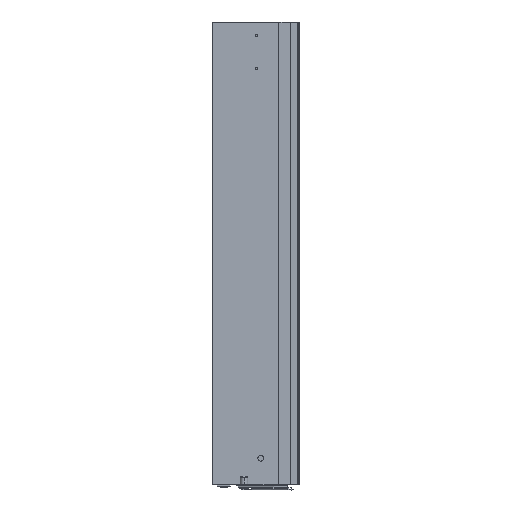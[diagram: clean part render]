
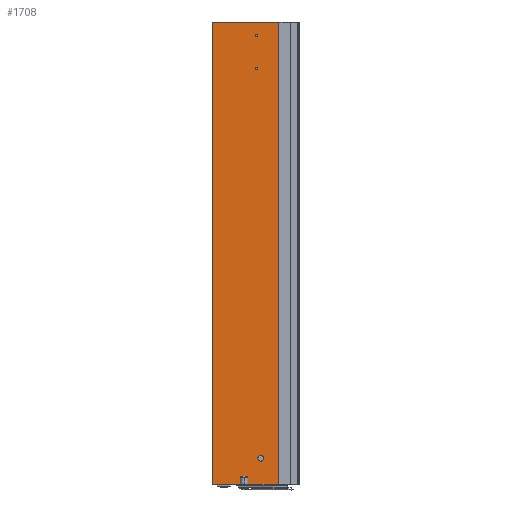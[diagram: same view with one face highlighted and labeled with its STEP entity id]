
A CAD part, left-side view. The second image highlights one B-rep face of the part: STEP entity #1708.
In plain terms, the highlighted planar face has unit normal (-1, 0, 0).
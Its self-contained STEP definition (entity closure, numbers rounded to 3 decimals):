
#15 = EDGE_LOOP ( 'NONE', ( #2296, #3277 ) ) ;
#33 = EDGE_LOOP ( 'NONE', ( #711, #95, #1305, #763, #3119 ) ) ;
#54 = DIRECTION ( 'NONE',  ( 0., 1., 0. ) ) ;
#76 = VECTOR ( 'NONE', #2301, 1000. ) ;
#95 = ORIENTED_EDGE ( 'NONE', *, *, #744, .F. ) ;
#150 = VECTOR ( 'NONE', #1629, 1000. ) ;
#215 = AXIS2_PLACEMENT_3D ( 'NONE', #1267, #3198, #1559 ) ;
#250 = VERTEX_POINT ( 'NONE', #2184 ) ;
#275 = VERTEX_POINT ( 'NONE', #3162 ) ;
#304 = CIRCLE ( 'NONE', #2966, 3.9 ) ;
#363 = EDGE_CURVE ( 'NONE', #782, #609, #304, .T. ) ;
#383 = PLANE ( 'NONE',  #1132 ) ;
#411 = CIRCLE ( 'NONE', #2549, 1.397 ) ;
#452 = AXIS2_PLACEMENT_3D ( 'NONE', #715, #969, #3171 ) ;
#580 = LINE ( 'NONE', #2676, #1963 ) ;
#609 = VERTEX_POINT ( 'NONE', #787 ) ;
#627 = ORIENTED_EDGE ( 'NONE', *, *, #363, .T. ) ;
#628 = FACE_OUTER_BOUND ( 'NONE', #33, .T. ) ;
#645 = CARTESIAN_POINT ( 'NONE',  ( -10.5, 0., 0. ) ) ;
#651 = DIRECTION ( 'NONE',  ( 0., 1., 0. ) ) ;
#677 = EDGE_CURVE ( 'NONE', #2550, #275, #3345, .T. ) ;
#711 = ORIENTED_EDGE ( 'NONE', *, *, #3292, .T. ) ;
#715 = CARTESIAN_POINT ( 'NONE',  ( -10.5, 30.85, -18.85 ) ) ;
#744 = EDGE_CURVE ( 'NONE', #250, #2113, #2482, .T. ) ;
#761 = CARTESIAN_POINT ( 'NONE',  ( -10.5, 32.247, -64.618 ) ) ;
#763 = ORIENTED_EDGE ( 'NONE', *, *, #2911, .F. ) ;
#782 = VERTEX_POINT ( 'NONE', #2948 ) ;
#787 = CARTESIAN_POINT ( 'NONE',  ( -10.5, 21.1, -604. ) ) ;
#847 = CARTESIAN_POINT ( 'NONE',  ( -10.5, 30.85, -18.85 ) ) ;
#905 = CARTESIAN_POINT ( 'NONE',  ( -10.5, 0., -640. ) ) ;
#969 = DIRECTION ( 'NONE',  ( -1., 0., 0. ) ) ;
#1071 = CARTESIAN_POINT ( 'NONE',  ( -10.5, 25., -604. ) ) ;
#1114 = DIRECTION ( 'NONE',  ( 0., 1., 0. ) ) ;
#1132 = AXIS2_PLACEMENT_3D ( 'NONE', #2031, #2310, #651 ) ;
#1134 = CARTESIAN_POINT ( 'NONE',  ( -10.5, 30.85, -64.618 ) ) ;
#1176 = AXIS2_PLACEMENT_3D ( 'NONE', #847, #2785, #1114 ) ;
#1267 = CARTESIAN_POINT ( 'NONE',  ( -10.5, 25., -604. ) ) ;
#1305 = ORIENTED_EDGE ( 'NONE', *, *, #1937, .F. ) ;
#1378 = CARTESIAN_POINT ( 'NONE',  ( -10.5, 91.5, 0. ) ) ;
#1408 = DIRECTION ( 'NONE',  ( 0., 1., 0. ) ) ;
#1495 = ORIENTED_EDGE ( 'NONE', *, *, #3130, .T. ) ;
#1548 = EDGE_CURVE ( 'NONE', #1666, #2813, #1789, .T. ) ;
#1559 = DIRECTION ( 'NONE',  ( 0., 1., 0. ) ) ;
#1629 = DIRECTION ( 'NONE',  ( 0., 0., -1. ) ) ;
#1654 = CARTESIAN_POINT ( 'NONE',  ( -10.5, 91.5, -640. ) ) ;
#1663 = DIRECTION ( 'NONE',  ( -1., 0., 0. ) ) ;
#1666 = VERTEX_POINT ( 'NONE', #2555 ) ;
#1680 = CARTESIAN_POINT ( 'NONE',  ( -10.5, 0., 0. ) ) ;
#1683 = DIRECTION ( 'NONE',  ( 1., 0., 0. ) ) ;
#1686 = VECTOR ( 'NONE', #3056, 1000. ) ;
#1708 = ADVANCED_FACE ( 'NONE', ( #3342, #628, #2010, #2737 ), #383, .F. ) ;
#1789 = LINE ( 'NONE', #1378, #1686 ) ;
#1800 = AXIS2_PLACEMENT_3D ( 'NONE', #3289, #1663, #54 ) ;
#1935 = ORIENTED_EDGE ( 'NONE', *, *, #2747, .F. ) ;
#1937 = EDGE_CURVE ( 'NONE', #2909, #250, #580, .T. ) ;
#1955 = CIRCLE ( 'NONE', #215, 3.9 ) ;
#1963 = VECTOR ( 'NONE', #2926, 1000. ) ;
#2010 = FACE_BOUND ( 'NONE', #3275, .T. ) ;
#2031 = CARTESIAN_POINT ( 'NONE',  ( -10.5, 91.5, 0. ) ) ;
#2113 = VERTEX_POINT ( 'NONE', #1654 ) ;
#2140 = CARTESIAN_POINT ( 'NONE',  ( -10.5, 91.9, -640. ) ) ;
#2161 = EDGE_CURVE ( 'NONE', #275, #2550, #3260, .T. ) ;
#2184 = CARTESIAN_POINT ( 'NONE',  ( -10.5, 58., -640. ) ) ;
#2263 = LINE ( 'NONE', #645, #76 ) ;
#2282 = DIRECTION ( 'NONE',  ( 0., 1., 0. ) ) ;
#2296 = ORIENTED_EDGE ( 'NONE', *, *, #677, .F. ) ;
#2301 = DIRECTION ( 'NONE',  ( 0., 0., -1. ) ) ;
#2310 = DIRECTION ( 'NONE',  ( 1., 0., 0. ) ) ;
#2418 = VERTEX_POINT ( 'NONE', #3422 ) ;
#2422 = DIRECTION ( 'NONE',  ( 0., 1., 0. ) ) ;
#2482 = LINE ( 'NONE', #2140, #3107 ) ;
#2549 = AXIS2_PLACEMENT_3D ( 'NONE', #1134, #3076, #1408 ) ;
#2550 = VERTEX_POINT ( 'NONE', #3469 ) ;
#2555 = CARTESIAN_POINT ( 'NONE',  ( -10.5, 91.5, 0. ) ) ;
#2676 = CARTESIAN_POINT ( 'NONE',  ( -10.5, 91.9, -640. ) ) ;
#2737 = FACE_BOUND ( 'NONE', #3054, .T. ) ;
#2747 = EDGE_CURVE ( 'NONE', #2418, #3178, #3467, .T. ) ;
#2785 = DIRECTION ( 'NONE',  ( -1., 0., 0. ) ) ;
#2808 = LINE ( 'NONE', #3009, #150 ) ;
#2813 = VERTEX_POINT ( 'NONE', #1680 ) ;
#2823 = EDGE_CURVE ( 'NONE', #3178, #2418, #411, .T. ) ;
#2909 = VERTEX_POINT ( 'NONE', #905 ) ;
#2911 = EDGE_CURVE ( 'NONE', #2813, #2909, #2263, .T. ) ;
#2926 = DIRECTION ( 'NONE',  ( 0., 1., 0. ) ) ;
#2948 = CARTESIAN_POINT ( 'NONE',  ( -10.5, 28.9, -604. ) ) ;
#2966 = AXIS2_PLACEMENT_3D ( 'NONE', #1071, #1683, #2282 ) ;
#2973 = ORIENTED_EDGE ( 'NONE', *, *, #2823, .F. ) ;
#3009 = CARTESIAN_POINT ( 'NONE',  ( -10.5, 91.5, 0. ) ) ;
#3054 = EDGE_LOOP ( 'NONE', ( #627, #1495 ) ) ;
#3056 = DIRECTION ( 'NONE',  ( 0., -1., 0. ) ) ;
#3076 = DIRECTION ( 'NONE',  ( -1., 0., 0. ) ) ;
#3107 = VECTOR ( 'NONE', #2422, 1000. ) ;
#3119 = ORIENTED_EDGE ( 'NONE', *, *, #1548, .F. ) ;
#3130 = EDGE_CURVE ( 'NONE', #609, #782, #1955, .T. ) ;
#3162 = CARTESIAN_POINT ( 'NONE',  ( -10.5, 29.453, -18.85 ) ) ;
#3171 = DIRECTION ( 'NONE',  ( 0., 1., 0. ) ) ;
#3178 = VERTEX_POINT ( 'NONE', #761 ) ;
#3198 = DIRECTION ( 'NONE',  ( 1., 0., 0. ) ) ;
#3260 = CIRCLE ( 'NONE', #1176, 1.397 ) ;
#3275 = EDGE_LOOP ( 'NONE', ( #2973, #1935 ) ) ;
#3277 = ORIENTED_EDGE ( 'NONE', *, *, #2161, .F. ) ;
#3289 = CARTESIAN_POINT ( 'NONE',  ( -10.5, 30.85, -64.618 ) ) ;
#3292 = EDGE_CURVE ( 'NONE', #1666, #2113, #2808, .T. ) ;
#3342 = FACE_BOUND ( 'NONE', #15, .T. ) ;
#3345 = CIRCLE ( 'NONE', #452, 1.397 ) ;
#3422 = CARTESIAN_POINT ( 'NONE',  ( -10.5, 29.453, -64.618 ) ) ;
#3467 = CIRCLE ( 'NONE', #1800, 1.397 ) ;
#3469 = CARTESIAN_POINT ( 'NONE',  ( -10.5, 32.247, -18.85 ) ) ;
